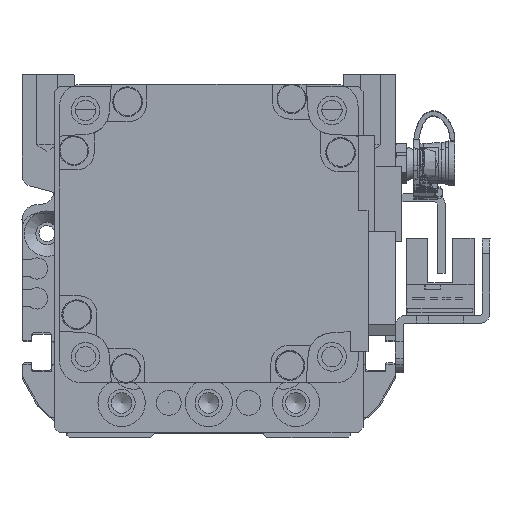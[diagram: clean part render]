
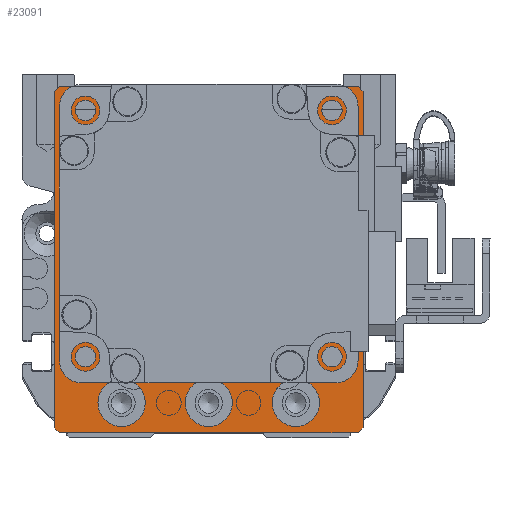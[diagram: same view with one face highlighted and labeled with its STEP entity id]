
A CAD part, left-side view. The second image highlights one B-rep face of the part: STEP entity #23091.
In plain terms, the highlighted planar face has unit normal (-1, 0, 0) as drawn and (0, 0, 1) by its records, which use the part's own axes.
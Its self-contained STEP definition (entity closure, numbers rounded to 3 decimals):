
#883=FACE_BOUND('',#4537,.T.);
#884=FACE_BOUND('',#4538,.T.);
#885=FACE_BOUND('',#4539,.T.);
#886=FACE_BOUND('',#4540,.T.);
#887=FACE_BOUND('',#4541,.T.);
#888=FACE_BOUND('',#4542,.T.);
#889=FACE_BOUND('',#4543,.T.);
#890=FACE_BOUND('',#4544,.T.);
#1424=PLANE('',#25703);
#3007=FACE_OUTER_BOUND('',#4536,.T.);
#4536=EDGE_LOOP('',(#20259,#20260,#20261,#20262,#20263,#20264,#20265,#20266));
#4537=EDGE_LOOP('',(#20267));
#4538=EDGE_LOOP('',(#20268));
#4539=EDGE_LOOP('',(#20269));
#4540=EDGE_LOOP('',(#20270));
#4541=EDGE_LOOP('',(#20271));
#4542=EDGE_LOOP('',(#20272));
#4543=EDGE_LOOP('',(#20273));
#4544=EDGE_LOOP('',(#20274));
#6440=LINE('',#38741,#8382);
#6443=LINE('',#38746,#8385);
#6445=LINE('',#38750,#8387);
#6447=LINE('',#38754,#8389);
#6449=LINE('',#38759,#8391);
#6451=LINE('',#38762,#8393);
#6452=LINE('',#38764,#8394);
#6453=LINE('',#38765,#8395);
#8382=VECTOR('',#31421,10.);
#8385=VECTOR('',#31426,10.);
#8387=VECTOR('',#31430,10.);
#8389=VECTOR('',#31434,10.);
#8391=VECTOR('',#31438,10.);
#8393=VECTOR('',#31442,10.);
#8394=VECTOR('',#31443,10.);
#8395=VECTOR('',#31444,10.);
#9758=CIRCLE('',#25704,25.);
#9759=CIRCLE('',#25705,2.067);
#9760=CIRCLE('',#25706,2.067);
#9761=CIRCLE('',#25707,2.067);
#9762=CIRCLE('',#25708,2.067);
#9763=CIRCLE('',#25709,4.75);
#9764=CIRCLE('',#25710,4.75);
#9765=CIRCLE('',#25711,4.75);
#11654=VERTEX_POINT('',#38738);
#11655=VERTEX_POINT('',#38740);
#11656=VERTEX_POINT('',#38744);
#11657=VERTEX_POINT('',#38748);
#11658=VERTEX_POINT('',#38752);
#11659=VERTEX_POINT('',#38756);
#11660=VERTEX_POINT('',#38758);
#11661=VERTEX_POINT('',#38763);
#11662=VERTEX_POINT('',#38766);
#11663=VERTEX_POINT('',#38768);
#11664=VERTEX_POINT('',#38770);
#11665=VERTEX_POINT('',#38772);
#11666=VERTEX_POINT('',#38774);
#11667=VERTEX_POINT('',#38776);
#11668=VERTEX_POINT('',#38778);
#11669=VERTEX_POINT('',#38780);
#14618=EDGE_CURVE('',#11654,#11655,#6440,.T.);
#14621=EDGE_CURVE('',#11654,#11656,#6443,.T.);
#14623=EDGE_CURVE('',#11657,#11656,#6445,.T.);
#14625=EDGE_CURVE('',#11657,#11658,#6447,.T.);
#14627=EDGE_CURVE('',#11659,#11660,#6449,.T.);
#14629=EDGE_CURVE('',#11659,#11655,#6451,.T.);
#14630=EDGE_CURVE('',#11661,#11658,#6452,.T.);
#14631=EDGE_CURVE('',#11661,#11660,#6453,.T.);
#14632=EDGE_CURVE('',#11662,#11662,#9758,.T.);
#14633=EDGE_CURVE('',#11663,#11663,#9759,.T.);
#14634=EDGE_CURVE('',#11664,#11664,#9760,.T.);
#14635=EDGE_CURVE('',#11665,#11665,#9761,.T.);
#14636=EDGE_CURVE('',#11666,#11666,#9762,.T.);
#14637=EDGE_CURVE('',#11667,#11667,#9763,.T.);
#14638=EDGE_CURVE('',#11668,#11668,#9764,.T.);
#14639=EDGE_CURVE('',#11669,#11669,#9765,.T.);
#20259=ORIENTED_EDGE('',*,*,#14627,.F.);
#20260=ORIENTED_EDGE('',*,*,#14629,.T.);
#20261=ORIENTED_EDGE('',*,*,#14618,.F.);
#20262=ORIENTED_EDGE('',*,*,#14621,.T.);
#20263=ORIENTED_EDGE('',*,*,#14623,.F.);
#20264=ORIENTED_EDGE('',*,*,#14625,.T.);
#20265=ORIENTED_EDGE('',*,*,#14630,.F.);
#20266=ORIENTED_EDGE('',*,*,#14631,.T.);
#20267=ORIENTED_EDGE('',*,*,#14632,.T.);
#20268=ORIENTED_EDGE('',*,*,#14633,.T.);
#20269=ORIENTED_EDGE('',*,*,#14634,.T.);
#20270=ORIENTED_EDGE('',*,*,#14635,.T.);
#20271=ORIENTED_EDGE('',*,*,#14636,.T.);
#20272=ORIENTED_EDGE('',*,*,#14637,.T.);
#20273=ORIENTED_EDGE('',*,*,#14638,.T.);
#20274=ORIENTED_EDGE('',*,*,#14639,.T.);
#23091=ADVANCED_FACE('',(#3007,#883,#884,#885,#886,#887,#888,#889,#890),
#1424,.T.);
#25703=AXIS2_PLACEMENT_3D('',#38761,#31440,#31441);
#25704=AXIS2_PLACEMENT_3D('',#38767,#31445,#31446);
#25705=AXIS2_PLACEMENT_3D('',#38769,#31447,#31448);
#25706=AXIS2_PLACEMENT_3D('',#38771,#31449,#31450);
#25707=AXIS2_PLACEMENT_3D('',#38773,#31451,#31452);
#25708=AXIS2_PLACEMENT_3D('',#38775,#31453,#31454);
#25709=AXIS2_PLACEMENT_3D('',#38777,#31455,#31456);
#25710=AXIS2_PLACEMENT_3D('',#38779,#31457,#31458);
#25711=AXIS2_PLACEMENT_3D('',#38781,#31459,#31460);
#31421=DIRECTION('',(-0.707,-0.707,0.));
#31426=DIRECTION('',(0.,1.,0.));
#31430=DIRECTION('',(0.707,-0.707,0.));
#31434=DIRECTION('',(-1.,0.,0.));
#31438=DIRECTION('',(-0.707,0.707,0.));
#31440=DIRECTION('center_axis',(0.,0.,1.));
#31441=DIRECTION('ref_axis',(1.,0.,0.));
#31442=DIRECTION('',(1.,0.,0.));
#31443=DIRECTION('',(0.707,0.707,0.));
#31444=DIRECTION('',(0.,-1.,0.));
#31445=DIRECTION('center_axis',(0.,0.,-1.));
#31446=DIRECTION('ref_axis',(1.,0.,0.));
#31447=DIRECTION('center_axis',(0.,0.,-1.));
#31448=DIRECTION('ref_axis',(1.,0.,0.));
#31449=DIRECTION('center_axis',(0.,0.,-1.));
#31450=DIRECTION('ref_axis',(1.,0.,0.));
#31451=DIRECTION('center_axis',(0.,0.,-1.));
#31452=DIRECTION('ref_axis',(1.,0.,0.));
#31453=DIRECTION('center_axis',(0.,0.,-1.));
#31454=DIRECTION('ref_axis',(1.,0.,0.));
#31455=DIRECTION('center_axis',(0.,0.,-1.));
#31456=DIRECTION('ref_axis',(1.,0.,0.));
#31457=DIRECTION('center_axis',(0.,0.,-1.));
#31458=DIRECTION('ref_axis',(1.,0.,0.));
#31459=DIRECTION('center_axis',(0.,0.,-1.));
#31460=DIRECTION('ref_axis',(1.,0.,0.));
#38738=CARTESIAN_POINT('',(31.,-33.75,59.));
#38740=CARTESIAN_POINT('',(30.,-34.75,59.));
#38741=CARTESIAN_POINT('',(31.438,-33.313,59.));
#38744=CARTESIAN_POINT('',(31.,33.75,59.));
#38746=CARTESIAN_POINT('',(31.,-34.75,59.));
#38748=CARTESIAN_POINT('',(30.,34.75,59.));
#38750=CARTESIAN_POINT('',(31.438,33.313,59.));
#38752=CARTESIAN_POINT('',(-30.,34.75,59.));
#38754=CARTESIAN_POINT('',(31.,34.75,59.));
#38756=CARTESIAN_POINT('',(-30.,-34.75,59.));
#38758=CARTESIAN_POINT('',(-31.,-33.75,59.));
#38759=CARTESIAN_POINT('',(-31.438,-33.313,59.));
#38761=CARTESIAN_POINT('Origin',(0.,0.,
59.));
#38762=CARTESIAN_POINT('',(-31.,-34.75,59.));
#38763=CARTESIAN_POINT('',(-31.,33.75,59.));
#38764=CARTESIAN_POINT('',(-31.438,33.313,59.));
#38765=CARTESIAN_POINT('',(-31.,34.75,59.));
#38766=CARTESIAN_POINT('',(-25.,5.25,59.));
#38767=CARTESIAN_POINT('Origin',(0.,5.25,59.));
#38768=CARTESIAN_POINT('',(22.682,-19.499,59.));
#38769=CARTESIAN_POINT('Origin',(24.749,-19.499,59.));
#38770=CARTESIAN_POINT('',(22.682,29.999,59.));
#38771=CARTESIAN_POINT('Origin',(24.749,29.999,59.));
#38772=CARTESIAN_POINT('',(-26.816,29.999,59.));
#38773=CARTESIAN_POINT('Origin',(-24.749,29.999,59.));
#38774=CARTESIAN_POINT('',(-26.816,-19.499,59.));
#38775=CARTESIAN_POINT('Origin',(-24.749,-19.499,59.));
#38776=CARTESIAN_POINT('',(12.75,-28.75,59.));
#38777=CARTESIAN_POINT('Origin',(17.5,-28.75,59.));
#38778=CARTESIAN_POINT('',(-4.75,-28.75,59.));
#38779=CARTESIAN_POINT('Origin',(0.,-28.75,59.));
#38780=CARTESIAN_POINT('',(-22.25,-28.75,59.));
#38781=CARTESIAN_POINT('Origin',(-17.5,-28.75,59.));
